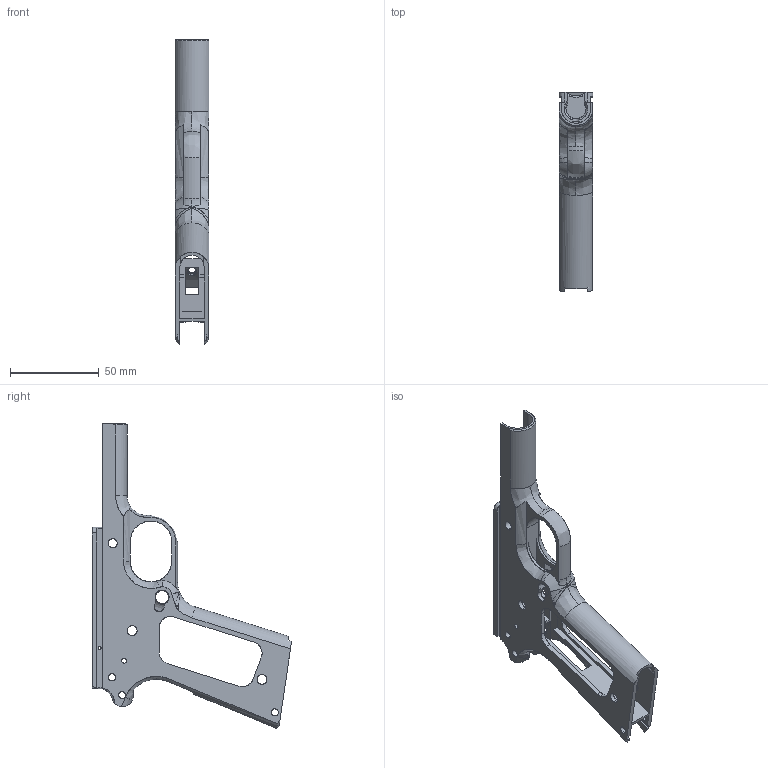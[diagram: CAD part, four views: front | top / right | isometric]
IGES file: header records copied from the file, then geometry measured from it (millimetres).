
Start section: SolidWorks IGES FILE using analytic representation for surfaces
Global section: file name: C:\AAA_Downloads\Gun Drawings\Guns\Iges Files\1911A1.IGS; native system: SolidWorks 2004 by SolidWorks Corporation; preprocessor: Version 5.3; author: Me; date: 040224.213636; units: inch
Bounding box: 19.1 x 112.18 x 171.75 mm (x, y, z)
Surface area: 34816.9 mm2 (no closed solid volume)
Topology: 0 solids, 0 shells, 251 faces, 4113 edges, 4107 vertices
Faces by surface type: revolution 128, bspline 123
